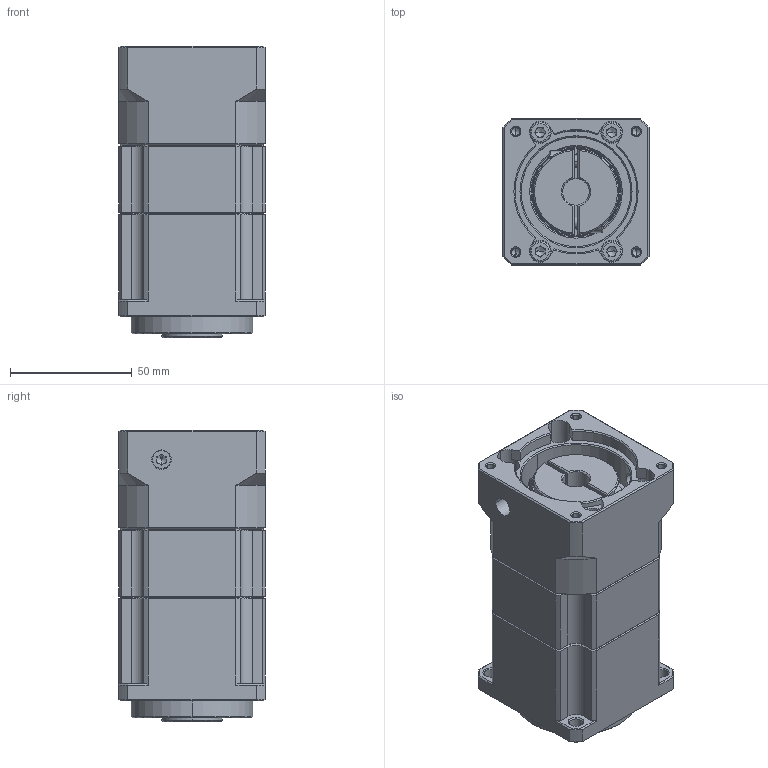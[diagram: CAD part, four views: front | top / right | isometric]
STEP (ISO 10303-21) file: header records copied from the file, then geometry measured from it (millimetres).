
FILE_DESCRIPTION (( 'STEP AP214' ), '1' );
FILE_NAME ('ZPB060-K16-L2-P1-11-50-70-M4.step', '2024-04-24T07:35:44', ( '' ), ( '' ), 'SwSTEP 2.0', 'SolidWorks 2016', '' );
FILE_SCHEMA (( 'AUTOMOTIVE_DESIGN' ));
Length unit declared in the file: millimetre
Products named in the file (1): ZPB060-K16-L2-P1-11-50-70-M4
Bounding box: 60 x 60 x 119.5 mm (x, y, z)
Volume: 334068.5 mm3; surface area: 71024.1 mm2
Topology: 13 solids, 14 shells, 1899 faces, 5369 edges, 3483 vertices
Faces by surface type: plane 1034, bspline 366, cylinder 215, cone 146, torus 92, sphere 46
Entity records: 97748 total; most frequent: CARTESIAN_POINT 30895, ORIENTED_EDGE 10468, DIRECTION 7960, EDGE_CURVE 5234, VERTEX_POINT 3414, LINE 3216, VECTOR 3216, AXIS2_PLACEMENT_3D 2372
